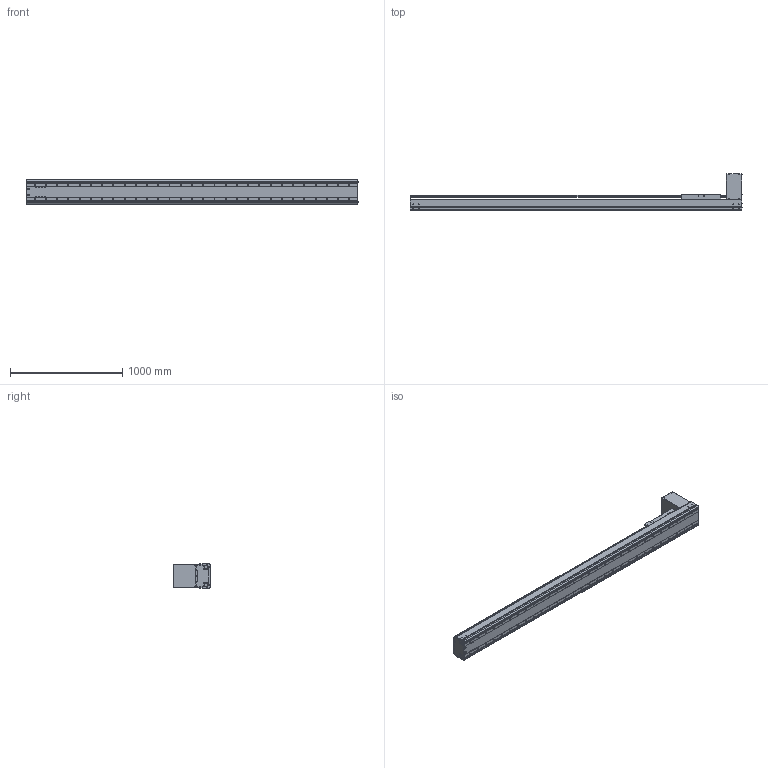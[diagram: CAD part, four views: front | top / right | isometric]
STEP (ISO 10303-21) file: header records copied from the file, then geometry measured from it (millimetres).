
FILE_DESCRIPTION((''),'2;1');
FILE_NAME('BE60J-BT-L19N-P5_IGS_PRT','2017-06-18T',(' '),(''),'PRO/ENGINEER BY PARAMETRIC TECHNOLOGY CORPORATION, 2015030','PRO/ENGINEER BY PARAMETRIC TECHNOLOGY CORPORATION, 2015030','');
FILE_SCHEMA(('CONFIG_CONTROL_DESIGN'));
Products named in the file (1): BE60J-BT-L19N-P5_IGS_PRT
Bounding box: 2954.4 x 327.5 x 214 mm (x, y, z)
Volume: 22832732.1 mm3; surface area: 6330491.2 mm2
Topology: 2 solids, 359 shells, 2536 faces, 7231 edges, 4860 vertices
Faces by surface type: cylinder 1276, plane 880, cone 284, torus 48, sphere 48
Entity records: 85115 total; most frequent: CARTESIAN_POINT 19806, DIRECTION 13609, ORIENTED_EDGE 12764, EDGE_CURVE 6992, AXIS2_PLACEMENT_3D 5205, VERTEX_POINT 4824, VECTOR 3199, LINE 3199
